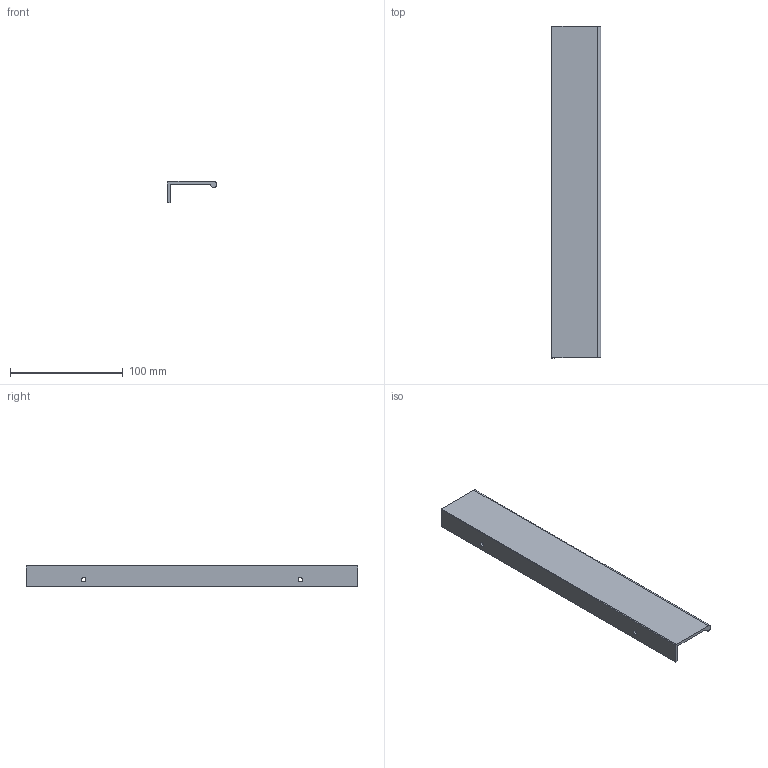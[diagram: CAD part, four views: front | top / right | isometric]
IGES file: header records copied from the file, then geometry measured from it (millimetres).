
Start section: Comment
Global section: file name: 8235.igs; native system: Parasolid(12.0); preprocessor: Pariges 4.4; author: Author; organization: Title; date: 20200903.173021; units: millimetre
Bounding box: 43.9 x 294 x 18.8 mm (x, y, z)
Surface area: 37658.6 mm2 (no closed solid volume)
Topology: 0 solids, 0 shells, 14 faces, 170 edges, 170 vertices
Faces by surface type: revolution 7, extrusion 7
